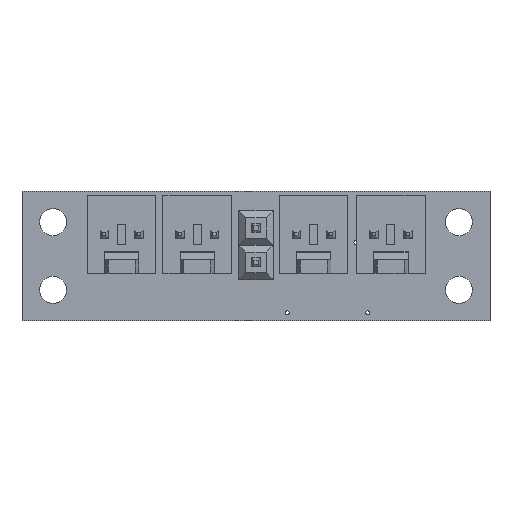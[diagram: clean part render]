
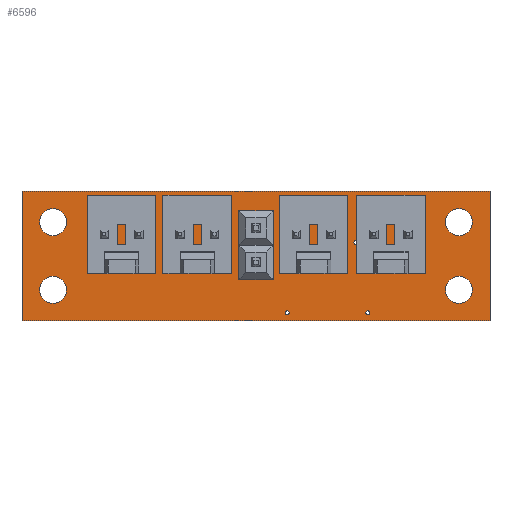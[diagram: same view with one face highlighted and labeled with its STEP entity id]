
A CAD part, top view. The second image highlights one B-rep face of the part: STEP entity #6596.
In plain terms, the highlighted planar face has unit normal (0, 0, 1).
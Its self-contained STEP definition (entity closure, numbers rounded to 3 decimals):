
#327=FACE_BOUND('',#1025,.T.);
#328=FACE_BOUND('',#1026,.T.);
#329=FACE_BOUND('',#1027,.T.);
#330=FACE_BOUND('',#1028,.T.);
#331=FACE_BOUND('',#1029,.T.);
#332=FACE_BOUND('',#1030,.T.);
#333=FACE_BOUND('',#1031,.T.);
#334=FACE_BOUND('',#1032,.T.);
#335=FACE_BOUND('',#1033,.T.);
#336=FACE_BOUND('',#1034,.T.);
#337=FACE_BOUND('',#1035,.T.);
#338=FACE_BOUND('',#1036,.T.);
#339=FACE_BOUND('',#1037,.T.);
#340=FACE_BOUND('',#1038,.T.);
#341=FACE_BOUND('',#1039,.T.);
#342=FACE_BOUND('',#1040,.T.);
#343=FACE_BOUND('',#1041,.T.);
#344=FACE_BOUND('',#1042,.T.);
#345=FACE_BOUND('',#1043,.T.);
#397=PLANE('',#7125);
#658=FACE_OUTER_BOUND('',#1024,.T.);
#1024=EDGE_LOOP('',(#4453,#4454,#4455,#4456));
#1025=EDGE_LOOP('',(#4457));
#1026=EDGE_LOOP('',(#4458));
#1027=EDGE_LOOP('',(#4459));
#1028=EDGE_LOOP('',(#4460));
#1029=EDGE_LOOP('',(#4461));
#1030=EDGE_LOOP('',(#4462));
#1031=EDGE_LOOP('',(#4463));
#1032=EDGE_LOOP('',(#4464));
#1033=EDGE_LOOP('',(#4465));
#1034=EDGE_LOOP('',(#4466));
#1035=EDGE_LOOP('',(#4467));
#1036=EDGE_LOOP('',(#4468));
#1037=EDGE_LOOP('',(#4469));
#1038=EDGE_LOOP('',(#4470));
#1039=EDGE_LOOP('',(#4471));
#1040=EDGE_LOOP('',(#4472));
#1041=EDGE_LOOP('',(#4473));
#1042=EDGE_LOOP('',(#4474));
#1043=EDGE_LOOP('',(#4475));
#1454=LINE('',#9605,#2044);
#1457=LINE('',#9611,#2047);
#1460=LINE('',#9617,#2050);
#1463=LINE('',#9621,#2053);
#2044=VECTOR('',#7814,10.);
#2047=VECTOR('',#7819,10.);
#2050=VECTOR('',#7824,10.);
#2053=VECTOR('',#7829,10.);
#2614=CIRCLE('',#7066,0.508);
#2616=CIRCLE('',#7069,0.555);
#2618=CIRCLE('',#7072,0.555);
#2620=CIRCLE('',#7075,0.15);
#2622=CIRCLE('',#7078,0.555);
#2624=CIRCLE('',#7081,0.15);
#2626=CIRCLE('',#7084,0.15);
#2628=CIRCLE('',#7087,0.15);
#2630=CIRCLE('',#7090,0.15);
#2632=CIRCLE('',#7093,0.555);
#2634=CIRCLE('',#7096,0.555);
#2636=CIRCLE('',#7099,0.555);
#2638=CIRCLE('',#7102,0.555);
#2640=CIRCLE('',#7105,0.555);
#2642=CIRCLE('',#7108,0.508);
#2643=CIRCLE('',#7110,1.);
#2645=CIRCLE('',#7113,1.);
#2647=CIRCLE('',#7116,1.);
#2649=CIRCLE('',#7119,1.);
#2798=VERTEX_POINT('',#9487);
#2800=VERTEX_POINT('',#9493);
#2802=VERTEX_POINT('',#9499);
#2804=VERTEX_POINT('',#9505);
#2806=VERTEX_POINT('',#9511);
#2808=VERTEX_POINT('',#9517);
#2810=VERTEX_POINT('',#9523);
#2812=VERTEX_POINT('',#9529);
#2814=VERTEX_POINT('',#9535);
#2816=VERTEX_POINT('',#9541);
#2818=VERTEX_POINT('',#9547);
#2820=VERTEX_POINT('',#9553);
#2822=VERTEX_POINT('',#9559);
#2824=VERTEX_POINT('',#9565);
#2826=VERTEX_POINT('',#9571);
#2827=VERTEX_POINT('',#9575);
#2829=VERTEX_POINT('',#9581);
#2831=VERTEX_POINT('',#9587);
#2833=VERTEX_POINT('',#9593);
#2837=VERTEX_POINT('',#9602);
#2838=VERTEX_POINT('',#9604);
#2840=VERTEX_POINT('',#9610);
#2842=VERTEX_POINT('',#9616);
#3422=EDGE_CURVE('',#2798,#2798,#2614,.T.);
#3425=EDGE_CURVE('',#2800,#2800,#2616,.T.);
#3428=EDGE_CURVE('',#2802,#2802,#2618,.T.);
#3431=EDGE_CURVE('',#2804,#2804,#2620,.T.);
#3434=EDGE_CURVE('',#2806,#2806,#2622,.T.);
#3437=EDGE_CURVE('',#2808,#2808,#2624,.T.);
#3440=EDGE_CURVE('',#2810,#2810,#2626,.T.);
#3443=EDGE_CURVE('',#2812,#2812,#2628,.T.);
#3446=EDGE_CURVE('',#2814,#2814,#2630,.T.);
#3449=EDGE_CURVE('',#2816,#2816,#2632,.T.);
#3452=EDGE_CURVE('',#2818,#2818,#2634,.T.);
#3455=EDGE_CURVE('',#2820,#2820,#2636,.T.);
#3458=EDGE_CURVE('',#2822,#2822,#2638,.T.);
#3461=EDGE_CURVE('',#2824,#2824,#2640,.T.);
#3464=EDGE_CURVE('',#2826,#2826,#2642,.T.);
#3465=EDGE_CURVE('',#2827,#2827,#2643,.T.);
#3468=EDGE_CURVE('',#2829,#2829,#2645,.T.);
#3471=EDGE_CURVE('',#2831,#2831,#2647,.T.);
#3474=EDGE_CURVE('',#2833,#2833,#2649,.T.);
#3479=EDGE_CURVE('',#2838,#2837,#1454,.T.);
#3482=EDGE_CURVE('',#2840,#2838,#1457,.T.);
#3485=EDGE_CURVE('',#2842,#2840,#1460,.T.);
#3488=EDGE_CURVE('',#2837,#2842,#1463,.T.);
#4453=ORIENTED_EDGE('',*,*,#3488,.T.);
#4454=ORIENTED_EDGE('',*,*,#3485,.T.);
#4455=ORIENTED_EDGE('',*,*,#3482,.T.);
#4456=ORIENTED_EDGE('',*,*,#3479,.T.);
#4457=ORIENTED_EDGE('',*,*,#3422,.T.);
#4458=ORIENTED_EDGE('',*,*,#3425,.T.);
#4459=ORIENTED_EDGE('',*,*,#3428,.T.);
#4460=ORIENTED_EDGE('',*,*,#3431,.T.);
#4461=ORIENTED_EDGE('',*,*,#3434,.T.);
#4462=ORIENTED_EDGE('',*,*,#3437,.T.);
#4463=ORIENTED_EDGE('',*,*,#3440,.T.);
#4464=ORIENTED_EDGE('',*,*,#3443,.T.);
#4465=ORIENTED_EDGE('',*,*,#3446,.T.);
#4466=ORIENTED_EDGE('',*,*,#3449,.T.);
#4467=ORIENTED_EDGE('',*,*,#3452,.T.);
#4468=ORIENTED_EDGE('',*,*,#3455,.T.);
#4469=ORIENTED_EDGE('',*,*,#3458,.T.);
#4470=ORIENTED_EDGE('',*,*,#3461,.T.);
#4471=ORIENTED_EDGE('',*,*,#3464,.T.);
#4472=ORIENTED_EDGE('',*,*,#3474,.T.);
#4473=ORIENTED_EDGE('',*,*,#3471,.T.);
#4474=ORIENTED_EDGE('',*,*,#3468,.T.);
#4475=ORIENTED_EDGE('',*,*,#3465,.T.);
#6596=ADVANCED_FACE('',(#658,#327,#328,#329,#330,#331,#332,#333,#334,#335,
#336,#337,#338,#339,#340,#341,#342,#343,#344,#345),#397,.T.);
#7066=AXIS2_PLACEMENT_3D('',#9489,#7682,#7683);
#7069=AXIS2_PLACEMENT_3D('',#9495,#7689,#7690);
#7072=AXIS2_PLACEMENT_3D('',#9501,#7696,#7697);
#7075=AXIS2_PLACEMENT_3D('',#9507,#7703,#7704);
#7078=AXIS2_PLACEMENT_3D('',#9513,#7710,#7711);
#7081=AXIS2_PLACEMENT_3D('',#9519,#7717,#7718);
#7084=AXIS2_PLACEMENT_3D('',#9525,#7724,#7725);
#7087=AXIS2_PLACEMENT_3D('',#9531,#7731,#7732);
#7090=AXIS2_PLACEMENT_3D('',#9537,#7738,#7739);
#7093=AXIS2_PLACEMENT_3D('',#9543,#7745,#7746);
#7096=AXIS2_PLACEMENT_3D('',#9549,#7752,#7753);
#7099=AXIS2_PLACEMENT_3D('',#9555,#7759,#7760);
#7102=AXIS2_PLACEMENT_3D('',#9561,#7766,#7767);
#7105=AXIS2_PLACEMENT_3D('',#9567,#7773,#7774);
#7108=AXIS2_PLACEMENT_3D('',#9573,#7780,#7781);
#7110=AXIS2_PLACEMENT_3D('',#9576,#7784,#7785);
#7113=AXIS2_PLACEMENT_3D('',#9582,#7791,#7792);
#7116=AXIS2_PLACEMENT_3D('',#9588,#7798,#7799);
#7119=AXIS2_PLACEMENT_3D('',#9594,#7805,#7806);
#7125=AXIS2_PLACEMENT_3D('',#9622,#7830,#7831);
#7682=DIRECTION('center_axis',(0.,0.,-1.));
#7683=DIRECTION('ref_axis',(1.,0.,0.));
#7689=DIRECTION('center_axis',(0.,0.,-1.));
#7690=DIRECTION('ref_axis',(1.,0.,0.));
#7696=DIRECTION('center_axis',(0.,0.,-1.));
#7697=DIRECTION('ref_axis',(1.,0.,0.));
#7703=DIRECTION('center_axis',(0.,0.,-1.));
#7704=DIRECTION('ref_axis',(1.,0.,0.));
#7710=DIRECTION('center_axis',(0.,0.,-1.));
#7711=DIRECTION('ref_axis',(1.,0.,0.));
#7717=DIRECTION('center_axis',(0.,0.,-1.));
#7718=DIRECTION('ref_axis',(1.,0.,0.));
#7724=DIRECTION('center_axis',(0.,0.,-1.));
#7725=DIRECTION('ref_axis',(1.,0.,0.));
#7731=DIRECTION('center_axis',(0.,0.,-1.));
#7732=DIRECTION('ref_axis',(1.,0.,0.));
#7738=DIRECTION('center_axis',(0.,0.,-1.));
#7739=DIRECTION('ref_axis',(1.,0.,0.));
#7745=DIRECTION('center_axis',(0.,0.,-1.));
#7746=DIRECTION('ref_axis',(1.,0.,0.));
#7752=DIRECTION('center_axis',(0.,0.,-1.));
#7753=DIRECTION('ref_axis',(1.,0.,0.));
#7759=DIRECTION('center_axis',(0.,0.,-1.));
#7760=DIRECTION('ref_axis',(1.,0.,0.));
#7766=DIRECTION('center_axis',(0.,0.,-1.));
#7767=DIRECTION('ref_axis',(1.,0.,0.));
#7773=DIRECTION('center_axis',(0.,0.,-1.));
#7774=DIRECTION('ref_axis',(1.,0.,0.));
#7780=DIRECTION('center_axis',(0.,0.,-1.));
#7781=DIRECTION('ref_axis',(1.,0.,0.));
#7784=DIRECTION('center_axis',(0.,0.,-1.));
#7785=DIRECTION('ref_axis',(1.,0.,0.));
#7791=DIRECTION('center_axis',(0.,0.,-1.));
#7792=DIRECTION('ref_axis',(1.,0.,0.));
#7798=DIRECTION('center_axis',(0.,0.,-1.));
#7799=DIRECTION('ref_axis',(1.,0.,0.));
#7805=DIRECTION('center_axis',(0.,0.,-1.));
#7806=DIRECTION('ref_axis',(1.,0.,0.));
#7814=DIRECTION('',(-1.,0.,0.));
#7819=DIRECTION('',(0.,1.,0.));
#7824=DIRECTION('',(1.,0.,0.));
#7829=DIRECTION('',(0.,-1.,0.));
#7830=DIRECTION('center_axis',(0.,0.,1.));
#7831=DIRECTION('ref_axis',(1.,0.,0.));
#9487=CARTESIAN_POINT('',(16.992,4.5,1.57));
#9489=CARTESIAN_POINT('Origin',(17.5,4.5,1.57));
#9493=CARTESIAN_POINT('',(25.675,6.6,1.57));
#9495=CARTESIAN_POINT('Origin',(26.23,6.6,1.57));
#9499=CARTESIAN_POINT('',(19.965,6.6,1.57));
#9501=CARTESIAN_POINT('Origin',(20.52,6.6,1.57));
#9505=CARTESIAN_POINT('',(19.372,4.9,1.57));
#9507=CARTESIAN_POINT('Origin',(19.522,4.9,1.57));
#9511=CARTESIAN_POINT('',(13.905,6.6,1.57));
#9513=CARTESIAN_POINT('Origin',(14.46,6.6,1.57));
#9517=CARTESIAN_POINT('',(24.739,6.,1.57));
#9519=CARTESIAN_POINT('Origin',(24.889,6.,1.57));
#9523=CARTESIAN_POINT('',(25.05,5.,1.57));
#9525=CARTESIAN_POINT('Origin',(25.2,5.,1.57));
#9529=CARTESIAN_POINT('',(19.65,0.8,1.57));
#9531=CARTESIAN_POINT('Origin',(19.8,0.8,1.57));
#9535=CARTESIAN_POINT('',(25.616,0.8,1.57));
#9537=CARTESIAN_POINT('Origin',(25.766,0.8,1.57));
#9541=CARTESIAN_POINT('',(11.365,6.6,1.57));
#9543=CARTESIAN_POINT('Origin',(11.92,6.6,1.57));
#9547=CARTESIAN_POINT('',(5.765,6.6,1.57));
#9549=CARTESIAN_POINT('Origin',(6.32,6.6,1.57));
#9553=CARTESIAN_POINT('',(8.305,6.6,1.57));
#9555=CARTESIAN_POINT('Origin',(8.86,6.6,1.57));
#9559=CARTESIAN_POINT('',(22.505,6.6,1.57));
#9561=CARTESIAN_POINT('Origin',(23.06,6.6,1.57));
#9565=CARTESIAN_POINT('',(28.215,6.6,1.57));
#9567=CARTESIAN_POINT('Origin',(28.77,6.6,1.57));
#9571=CARTESIAN_POINT('',(16.992,7.04,1.57));
#9573=CARTESIAN_POINT('Origin',(17.5,7.04,1.57));
#9575=CARTESIAN_POINT('',(1.5,2.5,1.57));
#9576=CARTESIAN_POINT('Origin',(2.5,2.5,1.57));
#9581=CARTESIAN_POINT('',(1.5,7.5,1.57));
#9582=CARTESIAN_POINT('Origin',(2.5,7.5,1.57));
#9587=CARTESIAN_POINT('',(31.5,7.5,1.57));
#9588=CARTESIAN_POINT('Origin',(32.5,7.5,1.57));
#9593=CARTESIAN_POINT('',(31.5,2.5,1.57));
#9594=CARTESIAN_POINT('Origin',(32.5,2.5,1.57));
#9602=CARTESIAN_POINT('',(0.2,9.8,1.57));
#9604=CARTESIAN_POINT('',(34.8,9.8,1.57));
#9605=CARTESIAN_POINT('',(34.8,9.8,1.57));
#9610=CARTESIAN_POINT('',(34.8,0.2,1.57));
#9611=CARTESIAN_POINT('',(34.8,0.2,1.57));
#9616=CARTESIAN_POINT('',(0.2,0.2,1.57));
#9617=CARTESIAN_POINT('',(0.2,0.2,1.57));
#9621=CARTESIAN_POINT('',(0.2,9.8,1.57));
#9622=CARTESIAN_POINT('Origin',(17.5,5.,1.57));
